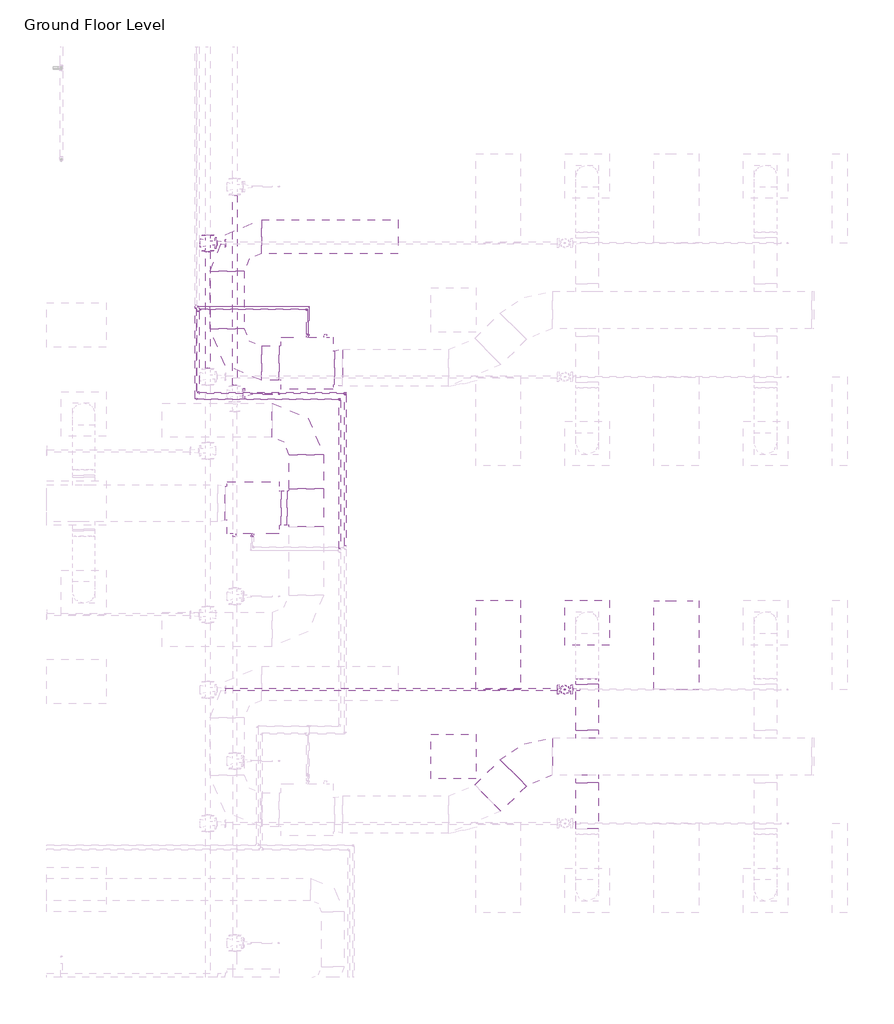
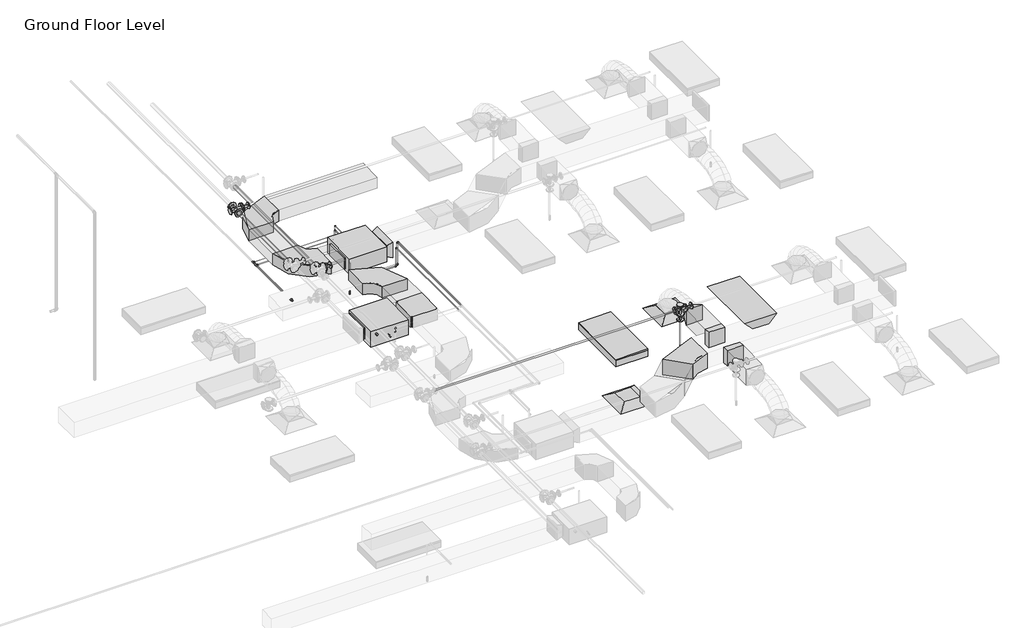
# One storey, part 62 of 74: 20 pipe fittings, 20 pipe segments, 9 duct fittings, 8 duct segments, 2 air terminals, 2 fire suppression terminals, 2 light fixtures, 2 proxies.
"""IFC4 building model written with IfcOpenShell, lengths in millimetres."""

from ifc_helpers import new_model, si_unit, point, frame, frame_2d, origin, place, context, project, spatial, polyline, circle_curve, trimmed, segment, composite_curve, outline, extrude, transform, mapped, element, save
from components import m_return_diffuser_600_x_600_face_300_x_300_connection_ff221211, fcu_daikin_iu_bad131e0, m_rectangular_elbow_radius_1_w_54c96895, m_rectangular_elbow_radius_1_5_w_acc56c25, m_rectangular_takeoff_standard_cb0ccb98, m_rectangular_takeoff_standard_2be5eba1, m_rectangular_tee_standard_fa4de0e8, m_rectangular_transition_angle_45_degree_2b595dfe, m_rectangular_to_round_transition_angle_45_degree_641efff0, m_sprinkler_dry_pendent_hosted_15_mm_dry_pendent_9bda8e11, m_sprinkler_pendent_15_mm_pendent_06fcbd8e, m_emergency_recessed_lighting_fixture_600x1200_277_5b10b25d, m_troffer_light_parabolic_rectangular1_0600x1200mm_4_lamp_86473d4a, m_elbow_generic_standard_a088f956, m_elbow_generic_standard_2a704253, m_elbow_generic_standard_73005802, m_elbow_generic_standard_bb5ffebe, m_reducer_flanged_cs_class_150_standard_ccf252ad, m_reducer_flanged_cs_class_150_standard_9dfe9ec5, m_reducer_flanged_cs_class_150_standard_a7631c35, m_tee_generic_standard_cdc1cff5, m_tee_generic_standard_bbfc025c, m_tee_round_base_flanged_cs_class_150_standard_dd767e04, m_tee_round_base_flanged_cs_class_150_standard_7e5987a1, m_transition_generic_standard_e9aec4dd, m_transition_generic_standard_c2658a33

model = new_model("IFC4")

# Units and contexts
model_context = context("Model", 3, world=origin())
ifc_project = project(units=[si_unit("LENGTHUNIT", "METRE", prefix="MILLI")], contexts=[model_context])

# Site, building, storey
site = spatial("IfcSite", under=ifc_project)
building = spatial("IfcBuilding", under=site)
storey = spatial("IfcBuildingStorey", under=building, Name="Ground Floor Level", Elevation=900.0)

# Air terminals
placement = place(None, origin())
m_return_diffuser_600_x_600_face_300_x_300_connection_shape = m_return_diffuser_600_x_600_face_300_x_300_connection_ff221211(model_context)
element("IfcAirTerminal", 1, ObjectType="M_Return Diffuser : 600 x 600 Face 300 x 300 Connection", at=placement, inside=storey, context=model_context, shape_type="MappedRepresentation", body=[
    mapped(m_return_diffuser_600_x_600_face_300_x_300_connection_shape, transform((8942.7672395, 725.2153534, 3650.0), x_axis=(1.0, 0.0, 0.0), y_axis=(0.0, 1.0, 0.0), z_axis=(0.0, 0.0, 1.0))),
])
element("IfcAirTerminal", 2, ObjectType="M_Supply Diffuser : 600 x 600 Face 300 x 300 Connection", at=placement, inside=storey, context=model_context, shape_type="MappedRepresentation", body=[
    mapped(m_return_diffuser_600_x_600_face_300_x_300_connection_shape, transform((10742.7672395, 2525.2153534, 3650.0), x_axis=(1.0, 0.0, 0.0), y_axis=(0.0, 1.0, 0.0), z_axis=(0.0, 0.0, 1.0))),
])

# Proxies
fcu_daikin_iu_shape = fcu_daikin_iu_bad131e0(model_context)
element("IfcBuildingElementProxy", 3, Name="FCU-DAIKIN IU : 4.5kW, 230V/50Hz/1Ph", ObjectType="FCU-DAIKIN IU : 4.5kW, 230V/50Hz/1Ph", at=placement, inside=storey, context=model_context, shape_type="MappedRepresentation", body=[
    mapped(fcu_daikin_iu_shape, transform((6968.8139492, 6019.6779527, 3934.0932729), x_axis=(0.0, 1.0, 0.0), y_axis=(-1.0, 0.0, 0.0), z_axis=(0.0, 0.0, 1.0))),
])
element("IfcBuildingElementProxy", 4, Name="FCU-DAIKIN IU : 4.5kW, 230V/50Hz/1Ph", ObjectType="FCU-DAIKIN IU : 4.5kW, 230V/50Hz/1Ph", at=placement, inside=storey, context=model_context, shape_type="MappedRepresentation", body=[
    mapped(fcu_daikin_iu_shape, transform((6243.4139492, 4071.5199167, 3934.0875), x_axis=(0.0, -1.0, 0.0), y_axis=(1.0, 0.0, 0.0), z_axis=(0.0, 0.0, 1.0))),
])

# Duct fittings
m_rectangular_elbow_radius_1_w_shape = m_rectangular_elbow_radius_1_w_54c96895(model_context)
element("IfcDuctFitting", 5, ObjectType="M_Rectangular Elbow - Radius : 1 W", at=placement, inside=storey, context=model_context, shape_type="MappedRepresentation", body=[
    mapped(m_rectangular_elbow_radius_1_w_shape, transform((5893.4139492, 6019.6779527, 4075.2932729), x_axis=(0.0, -1.0, 0.0), y_axis=(1.0, 0.0, 0.0), z_axis=(0.0, 0.0, 1.0))),
])
element("IfcDuctFitting", 6, ObjectType="M_Rectangular Elbow - Radius : 1 W", at=placement, inside=storey, context=model_context, shape_type="MappedRepresentation", body=[
    mapped(m_rectangular_elbow_radius_1_w_shape, transform((5893.4139492, 7719.6783949, 4075.2932729), x_axis=(-1.0, 0.0, 0.0), y_axis=(0.0, -1.0, 0.0), z_axis=(0.0, 0.0, 1.0))),
])
element("IfcDuctFitting", 7, ObjectType="M_Rectangular Elbow - Radius : 1 W", at=placement, inside=storey, context=model_context, shape_type="MappedRepresentation", body=[
    mapped(m_rectangular_elbow_radius_1_w_shape, transform((6958.8139492, 5251.5199167, 4075.2875), x_axis=(0.0, 1.0, 0.0), y_axis=(-1.0, 0.0, 0.0), z_axis=(0.0, 0.0, 1.0))),
])
m_rectangular_elbow_radius_1_5_w_shape = m_rectangular_elbow_radius_1_5_w_acc56c25(model_context)
element("IfcDuctFitting", 8, ObjectType="M_Rectangular Elbow - Radius : 1.5 W", at=placement, inside=storey, context=model_context, shape_type="MappedRepresentation", body=[
    mapped(m_rectangular_elbow_radius_1_5_w_shape, transform((9966.7301365, 725.2153534, 4100.0), x_axis=(-1.0, 0.0, 0.0), y_axis=(0.0, -0.9999999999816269, 6.061864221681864e-06), z_axis=(0.0, 6.061864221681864e-06, 0.9999999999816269))),
])
m_rectangular_takeoff_standard_shape = m_rectangular_takeoff_standard_cb0ccb98(model_context)
element("IfcDuctFitting", 9, ObjectType="M_Rectangular Takeoff : Standard", at=placement, inside=storey, context=model_context, shape_type="MappedRepresentation", body=[
    mapped(m_rectangular_takeoff_standard_shape, transform((10742.7672395, 975.2153534, 4100.0), x_axis=(0.0, 1.0, 0.0), y_axis=(1.0, 0.0, 0.0), z_axis=(0.0, 0.0, -1.0))),
])
m_rectangular_takeoff_standard_2_shape = m_rectangular_takeoff_standard_2be5eba1(model_context)
element("IfcDuctFitting", 10, ObjectType="M_Rectangular Takeoff : Standard", at=placement, inside=storey, context=model_context, shape_type="MappedRepresentation", body=[
    mapped(m_rectangular_takeoff_standard_2_shape, transform((10742.7672395, 475.2153534, 4100.0), x_axis=(0.0, -1.0, 0.0), y_axis=(-1.0, 0.0, 0.0), z_axis=(0.0, 0.0, -1.0))),
])
m_rectangular_tee_standard_shape = m_rectangular_tee_standard_fa4de0e8(model_context)
element("IfcDuctFitting", 11, ObjectType="M_Rectangular Tee : Standard", at=placement, inside=storey, context=model_context, shape_type="MappedRepresentation", body=[
    mapped(m_rectangular_tee_standard_shape, transform((6958.8139492, 4071.5199167, 4075.2875), x_axis=(0.0, -1.0, 0.0), y_axis=(1.0, 0.0, 0.0), z_axis=(0.0, 0.0, 1.0))),
])
m_rectangular_transition_angle_45_degree_shape = m_rectangular_transition_angle_45_degree_2b595dfe(model_context)
element("IfcDuctFitting", 12, ObjectType="M_Rectangular Transition - Angle : 45 Degree", at=placement, inside=storey, context=model_context, shape_type="MappedRepresentation", body=[
    mapped(m_rectangular_transition_angle_45_degree_shape, transform((7344.2139492, 5956.1779527, 4100.0057729), x_axis=(1.0, 0.0, 0.0), y_axis=(0.0, 1.0, 0.0), z_axis=(0.0, 0.0, 1.0))),
])
m_rectangular_to_round_transition_angle_45_degree_shape = m_rectangular_to_round_transition_angle_45_degree_641efff0(model_context)
element("IfcDuctFitting", 13, ObjectType="M_Rectangular to Round Transition - Angle : 45 Degree", at=placement, inside=storey, context=model_context, shape_type="MappedRepresentation", body=[
    mapped(m_rectangular_to_round_transition_angle_45_degree_shape, transform((10742.7672395, 1697.8794221, 4100.0), x_axis=(0.0, 1.0, 0.0), y_axis=(-1.0, 0.0, 0.0), z_axis=(0.0, 0.0, 1.0))),
])

# Duct segments
element("IfcDuctSegment", 14, ObjectType="Radius Elbows / Taps", at=placement, inside=storey, context=model_context, shape_type="SweptSolid", body=[
    extrude(outline(polyline([(6593.4139492, 6250.6154527), (6593.4139492, 5788.7404527), (6355.2889492, 5788.7404527), (6355.2889492, 6250.6154527), (6593.4139492, 6250.6154527)])), frame((0.0, 0.0, 3968.1432729), z_axis=(0.0, 0.0, 1.0), x_axis=(1.0, 0.0, 0.0)), (0.0, 0.0, 1.0), 214.3),
])
element("IfcDuctSegment", 15, ObjectType="Radius Elbows / Taps", at=placement, inside=storey, context=model_context, shape_type="SweptSolid", body=[
    extrude(outline(polyline([(6124.3514492, 6481.5529527), (5662.4764492, 6481.5529527), (5662.4764492, 7257.8033949), (6124.3514492, 7257.8033949), (6124.3514492, 6481.5529527)])), frame((0.0, 0.0, 3968.1432729), z_axis=(0.0, 0.0, 1.0), x_axis=(1.0, 0.0, 0.0)), (0.0, 0.0, 1.0), 214.3),
])
element("IfcDuctSegment", 16, ObjectType="Radius Elbows / Taps", at=placement, inside=storey, context=model_context, shape_type="SweptSolid", body=[
    extrude(outline(polyline([(6355.2889492, 7488.7408949), (6355.2889492, 7950.6158949), (8193.4139492, 7950.6158949), (8193.4139492, 7488.7408949), (6355.2889492, 7488.7408949)])), frame((0.0, 0.0, 3968.1432729), z_axis=(0.0, 0.0, 1.0), x_axis=(1.0, 0.0, 0.0)), (0.0, 0.0, 1.0), 214.3),
])
element("IfcDuctSegment", 17, ObjectType="Radius Elbows / Taps", at=placement, inside=storey, context=model_context, shape_type="SweptSolid", body=[
    extrude(outline(polyline([(9584.1393452, -10.9288285), (9230.5859546, 342.6245621), (9570.2835271, 682.3221346), (9923.8369177, 328.768744), (9584.1393452, -10.9288285)])), frame((0.0, 0.0, 3950.0033908), z_axis=(0.0, 0.0, 1.0), x_axis=(1.0, 0.0, 0.0)), (0.0, 0.0, 1.0), 300.0),
])
element("IfcDuctSegment", 18, ObjectType="Radius Elbows / Taps", at=placement, inside=storey, context=model_context, shape_type="SweptSolid", body=[
    extrude(outline(polyline([(6618.8139492, 3840.5824167), (6618.8139492, 4302.4574167), (6702.8764492, 4302.4574167), (6702.8764492, 3840.5824167), (6618.8139492, 3840.5824167)])), frame((0.0, 0.0, 3968.1375), z_axis=(0.0, 0.0, 1.0), x_axis=(1.0, 0.0, 0.0)), (0.0, 0.0, 1.0), 214.3),
])
element("IfcDuctSegment", 19, ObjectType="Radius Elbows / Taps", at=placement, inside=storey, context=model_context, shape_type="SweptSolid", body=[
    extrude(outline(polyline([(7189.7514492, 4327.4574167), (6727.8764492, 4327.4574167), (6727.8764492, 4789.6449167), (7189.7514492, 4789.6449167), (7189.7514492, 4327.4574167)])), frame((0.0, 0.0, 3968.1375), z_axis=(0.0, 0.0, 1.0), x_axis=(1.0, 0.0, 0.0)), (0.0, 0.0, 1.0), 214.3),
])
element("IfcDuctSegment", 20, ObjectType="Radius Elbows / Taps", at=placement, inside=storey, context=model_context, shape_type="SweptSolid", body=[
    extrude(outline(polyline([(10892.7672395, 1076.8153534), (10592.7672395, 1076.8153534), (10592.7672395, 1697.8794221), (10892.7672395, 1697.8794221), (10892.7672395, 1076.8153534)])), frame((0.0, 0.0, 3950.0), z_axis=(0.0, 0.0, 1.0), x_axis=(1.0, 0.0, 0.0)), (0.0, 0.0, 1.0), 300.0),
])
element("IfcDuctSegment", 21, ObjectType="Radius Elbows / Taps", at=placement, inside=storey, context=model_context, shape_type="SweptSolid", body=[
    extrude(outline(polyline([(10592.7672395, 373.6153534), (10892.7672395, 373.6153534), (10892.7672395, -247.4487153), (10592.7672395, -247.4487153), (10592.7672395, 373.6153534)])), frame((0.0, 0.0, 3950.0), z_axis=(0.0, 0.0, 1.0), x_axis=(1.0, 0.0, 0.0)), (0.0, 0.0, 1.0), 300.0),
])

# Fire suppression terminals
m_sprinkler_dry_pendent_hosted_15_mm_dry_pendent_shape = m_sprinkler_dry_pendent_hosted_15_mm_dry_pendent_9bda8e11(model_context)
element("IfcFireSuppressionTerminal", 22, ObjectType="M_Sprinkler - Dry - Pendent - Hosted : 15 mm Dry Pendent", at=placement, inside=storey, context=model_context, shape_type="MappedRepresentation", body=[
    mapped(m_sprinkler_dry_pendent_hosted_15_mm_dry_pendent_shape, transform((10442.7672395, 1625.2153534, 3650.0), x_axis=(1.0, 0.0, 0.0), y_axis=(0.0, -1.0, 0.0), z_axis=(0.0, 0.0, -1.0))),
])
m_sprinkler_pendent_15_mm_pendent_shape = m_sprinkler_pendent_15_mm_pendent_06fcbd8e(model_context)
element("IfcFireSuppressionTerminal", 23, ObjectType="M_Sprinkler - Pendent : 15 mm Pendent", at=placement, inside=storey, context=model_context, shape_type="MappedRepresentation", body=[
    mapped(m_sprinkler_pendent_15_mm_pendent_shape, transform((6592.5481019, 5605.2153637, 3650.0), x_axis=(1.0, 0.0, 0.0), y_axis=(0.0, 1.0, 0.0), z_axis=(0.0, 0.0, 1.0))),
])

# Light fixtures
m_emergency_recessed_lighting_fixture_600x1200_277_shape = m_emergency_recessed_lighting_fixture_600x1200_277_5b10b25d(model_context)
element("IfcLightFixture", 24, ObjectType="M_Emergency Recessed Lighting Fixture : 600x1200 - 277", at=placement, inside=storey, context=model_context, shape_type="MappedRepresentation", body=[
    mapped(m_emergency_recessed_lighting_fixture_600x1200_277_shape, transform((11642.7672395, 1625.2153534, 3650.0), x_axis=(0.0, 1.0, 0.0), y_axis=(-1.0, 0.0, 0.0), z_axis=(0.0, 0.0, 1.0))),
])
m_troffer_light_parabolic_rectangular1_0600x1200mm_4_lamp_shape = m_troffer_light_parabolic_rectangular1_0600x1200mm_4_lamp_86473d4a(model_context)
element("IfcLightFixture", 25, ObjectType="M_Troffer Light - Parabolic Rectangular1 : 0600x1200mm(4 Lamp) - 277V 2", at=placement, inside=storey, context=model_context, shape_type="MappedRepresentation", body=[
    mapped(m_troffer_light_parabolic_rectangular1_0600x1200mm_4_lamp_shape, transform((9483.3013074, 2243.918855, 3650.0), x_axis=(0.0, 1.0, 0.0), y_axis=(-1.0, 0.0, 0.0), z_axis=(0.0, 0.0, 1.0))),
])

# Pipe fittings
m_elbow_generic_standard_shape = m_elbow_generic_standard_a088f956(model_context)
element("IfcPipeFitting", 26, ObjectType="M_Elbow - Generic : Standard", at=placement, inside=storey, context=model_context, shape_type="MappedRepresentation", body=[
    mapped(m_elbow_generic_standard_shape, transform((6968.8139492, 6741.4098545, 4034.0932729), x_axis=(0.0, 1.0, 0.0), y_axis=(0.0, 0.0, -1.0), z_axis=(-1.0, 0.0, 0.0))),
])
element("IfcPipeFitting", 27, ObjectType="M_Elbow - Generic : Standard", at=placement, inside=storey, context=model_context, shape_type="MappedRepresentation", body=[
    mapped(m_elbow_generic_standard_shape, transform((6968.8139492, 6741.4098545, 3851.8370709), x_axis=(0.0, 0.0, -1.0), y_axis=(-1.0, 0.0, 0.0), z_axis=(0.0, 1.0, 0.0))),
])
m_elbow_generic_standard_2_shape = m_elbow_generic_standard_2a704253(model_context)
element("IfcPipeFitting", 28, ObjectType="M_Elbow - Generic : Standard", at=placement, inside=storey, context=model_context, shape_type="MappedRepresentation", body=[
    mapped(m_elbow_generic_standard_2_shape, transform((6993.8139492, 6781.5253374, 4084.8932729), x_axis=(0.0, 1.0, 0.0), y_axis=(0.0, 0.0, -1.0), z_axis=(-1.0, 0.0, 0.0))),
])
element("IfcPipeFitting", 29, ObjectType="M_Elbow - Generic : Standard", at=placement, inside=storey, context=model_context, shape_type="MappedRepresentation", body=[
    mapped(m_elbow_generic_standard_2_shape, transform((6993.8139492, 6781.5253374, 3894.9), x_axis=(0.0, 0.0, -1.0), y_axis=(-1.0, 0.0, 0.0), z_axis=(0.0, 1.0, 0.0))),
])
m_elbow_generic_standard_3_shape = m_elbow_generic_standard_73005802(model_context)
element("IfcPipeFitting", 30, ObjectType="M_Elbow - Generic : Standard", at=placement, inside=storey, context=model_context, shape_type="MappedRepresentation", body=[
    mapped(m_elbow_generic_standard_3_shape, transform((7485.0672395, 5616.0098545, 4300.0), x_axis=(0.0, 1.0, 0.0), y_axis=(0.0, 0.0, -1.0), z_axis=(-1.0, 0.0, 0.0))),
])
element("IfcPipeFitting", 31, ObjectType="M_Elbow - Generic : Standard", at=placement, inside=storey, context=model_context, shape_type="MappedRepresentation", body=[
    mapped(m_elbow_generic_standard_3_shape, transform((7485.0672395, 5616.0098545, 3851.8370709), x_axis=(0.0, 0.0, -1.0), y_axis=(-1.0, 0.0, 0.0), z_axis=(0.0, 1.0, 0.0))),
])
element("IfcPipeFitting", 32, ObjectType="M_Elbow - Generic : Standard", at=placement, inside=storey, context=model_context, shape_type="MappedRepresentation", body=[
    mapped(m_elbow_generic_standard_3_shape, transform((5505.0672395, 5616.0098545, 3851.8370709), x_axis=(0.0, -1.0, 0.0), y_axis=(1.0, 0.0, 0.0), z_axis=(0.0, 0.0, 1.0))),
])
m_elbow_generic_standard_4_shape = m_elbow_generic_standard_bb5ffebe(model_context)
element("IfcPipeFitting", 33, ObjectType="M_Elbow - Generic : Standard", at=placement, inside=storey, context=model_context, shape_type="MappedRepresentation", body=[
    mapped(m_elbow_generic_standard_4_shape, transform((7412.2057053, 5534.0185138, 4265.0), x_axis=(0.0, 1.0, 0.0), y_axis=(0.0, 0.0, -1.0), z_axis=(-1.0, 0.0, 0.0))),
])
element("IfcPipeFitting", 34, ObjectType="M_Elbow - Generic : Standard", at=placement, inside=storey, context=model_context, shape_type="MappedRepresentation", body=[
    mapped(m_elbow_generic_standard_4_shape, transform((7412.2057053, 5534.0185138, 3894.9), x_axis=(0.0, 0.0, -1.0), y_axis=(-1.0, 0.0, 0.0), z_axis=(0.0, 1.0, 0.0))),
])
element("IfcPipeFitting", 35, ObjectType="M_Elbow - Generic : Standard", at=placement, inside=storey, context=model_context, shape_type="MappedRepresentation", body=[
    mapped(m_elbow_generic_standard_4_shape, transform((5472.2057053, 5534.0185138, 3894.9), x_axis=(0.0, -1.0, 0.0), y_axis=(1.0, 0.0, 0.0), z_axis=(0.0, 0.0, 1.0))),
])
m_reducer_flanged_cs_class_150_standard_shape = m_reducer_flanged_cs_class_150_standard_ccf252ad(model_context)
element("IfcPipeFitting", 36, ObjectType="M_Reducer - Flanged - CS - Class 150 : Standard", at=placement, inside=storey, context=model_context, shape_type="MappedRepresentation", body=[
    mapped(m_reducer_flanged_cs_class_150_standard_shape, transform((10543.4758332, 1625.2153534, 4360.0), x_axis=(1.0, 0.0, 0.0), y_axis=(0.0, 0.0, 1.0), z_axis=(0.0, -1.0, 0.0))),
])
element("IfcPipeFitting", 37, ObjectType="M_Reducer - Flanged - CS - Class 150 : Standard", at=placement, inside=storey, context=model_context, shape_type="MappedRepresentation", body=[
    mapped(m_reducer_flanged_cs_class_150_standard_shape, transform((10442.7672395, 1625.2153534, 4259.2914062), x_axis=(0.0, 0.0, -1.0), y_axis=(-1.0, 0.0, 0.0), z_axis=(0.0, 1.0, 0.0))),
])
m_reducer_flanged_cs_class_150_standard_2_shape = m_reducer_flanged_cs_class_150_standard_9dfe9ec5(model_context)
element("IfcPipeFitting", 38, ObjectType="M_Reducer - Flanged - CS - Class 150 : Standard", at=placement, inside=storey, context=model_context, shape_type="MappedRepresentation", body=[
    mapped(m_reducer_flanged_cs_class_150_standard_2_shape, transform((6111.057812, 5605.2153637, 4289.9751777), x_axis=(1.0, 0.0, 0.0), y_axis=(0.0, 0.0, -1.0), z_axis=(0.0, 1.0, 0.0))),
])
m_reducer_flanged_cs_class_150_standard_3_shape = m_reducer_flanged_cs_class_150_standard_a7631c35(model_context)
element("IfcPipeFitting", 39, ObjectType="M_Reducer - Flanged - CS - Class 150 : Standard", at=placement, inside=storey, context=model_context, shape_type="MappedRepresentation", body=[
    mapped(m_reducer_flanged_cs_class_150_standard_3_shape, transform((5749.869498, 7635.2153534, 4360.0), x_axis=(1.0, 0.0, 0.0), y_axis=(0.0, 0.0, 1.0), z_axis=(0.0, -1.0, 0.0))),
])
m_tee_generic_standard_shape = m_tee_generic_standard_cdc1cff5(model_context)
element("IfcPipeFitting", 40, ObjectType="M_Tee - Generic : Standard", at=placement, inside=storey, context=model_context, shape_type="MappedRepresentation", body=[
    mapped(m_tee_generic_standard_shape, transform((5472.2057053, 6781.5253374, 3894.9), x_axis=(0.0, 1.0, 0.0), y_axis=(-1.0, 0.0, 0.0), z_axis=(0.0, 0.0, 1.0))),
])
m_tee_generic_standard_2_shape = m_tee_generic_standard_bbfc025c(model_context)
element("IfcPipeFitting", 41, ObjectType="M_Tee - Generic : Standard", at=placement, inside=storey, context=model_context, shape_type="MappedRepresentation", body=[
    mapped(m_tee_generic_standard_2_shape, transform((5505.0672395, 6741.4098545, 3851.8370709), x_axis=(0.0, 1.0, 0.0), y_axis=(-1.0, 0.0, 0.0), z_axis=(0.0, 0.0, 1.0))),
])
m_tee_round_base_flanged_cs_class_150_standard_shape = m_tee_round_base_flanged_cs_class_150_standard_dd767e04(model_context)
element("IfcPipeFitting", 42, ObjectType="M_Tee Round Base - Flanged - CS - Class 150 : Standard", at=placement, inside=storey, context=model_context, shape_type="MappedRepresentation", body=[
    mapped(m_tee_round_base_flanged_cs_class_150_standard_shape, transform((5635.869498, 7635.2153534, 4360.0), x_axis=(0.0, 1.0, 0.0), y_axis=(-1.0, 0.0, 0.0), z_axis=(0.0, 0.0, 1.0))),
])
m_tee_round_base_flanged_cs_class_150_standard_2_shape = m_tee_round_base_flanged_cs_class_150_standard_7e5987a1(model_context)
element("IfcPipeFitting", 43, ObjectType="M_Tee Round Base - Flanged - CS - Class 150 : Standard", at=placement, inside=storey, context=model_context, shape_type="MappedRepresentation", body=[
    mapped(m_tee_round_base_flanged_cs_class_150_standard_2_shape, transform((10442.7672395, 1625.2153534, 4360.0), x_axis=(1.0, 0.0, 0.0), y_axis=(0.0, 0.0, 1.0), z_axis=(0.0, -1.0, 0.0))),
])
m_transition_generic_standard_shape = m_transition_generic_standard_e9aec4dd(model_context)
element("IfcPipeFitting", 44, ObjectType="M_Transition - Generic : Standard", at=placement, inside=storey, context=model_context, shape_type="MappedRepresentation", body=[
    mapped(m_transition_generic_standard_shape, transform((5530.4672395, 6741.4098545, 3851.8370709), x_axis=(1.0, 0.0, 0.0), y_axis=(0.0, 1.0, 0.0), z_axis=(0.0, 0.0, 1.0))),
])
m_transition_generic_standard_2_shape = m_transition_generic_standard_c2658a33(model_context)
element("IfcPipeFitting", 45, ObjectType="M_Transition - Generic : Standard", at=placement, inside=storey, context=model_context, shape_type="MappedRepresentation", body=[
    mapped(m_transition_generic_standard_2_shape, transform((5494.4307053, 6781.5253374, 3894.9), x_axis=(1.0, 0.0, 0.0), y_axis=(0.0, 1.0, 0.0), z_axis=(0.0, 0.0, 1.0))),
])

# Pipe segments
element("IfcPipeSegment", 46, ObjectType="Copper", at=placement, inside=storey, context=model_context, shape_type="SweptSolid", body=[
    extrude(outline(composite_curve([segment(trimmed(circle_curve(frame_2d((3894.9, 5472.2057053)), 8.1), [point((3894.9, 5464.1057053))], [point((3886.8, 5472.2057053))], False, "CARTESIAN"), True, "CONTINUOUS"), segment(trimmed(circle_curve(frame_2d((3894.9, 5472.2057053)), 8.1), [point((3886.8, 5472.2057053))], [point((3894.9, 5480.3057053))], False, "CARTESIAN"), True, "CONTINUOUS"), segment(trimmed(circle_curve(frame_2d((3894.9, 5472.2057053)), 8.1), [point((3894.9, 5480.3057053))], [point((3903.0, 5472.2057053))], False, "CARTESIAN"), True, "CONTINUOUS"), segment(trimmed(circle_curve(frame_2d((3894.9, 5472.2057053)), 8.1), [point((3903.0, 5472.2057053))], [point((3894.9, 5464.1057053))], False, "CARTESIAN"), True, "CONTINUOUS")], self_intersect=False)), frame((0.0, 5549.8935138, 0.0), z_axis=(0.0, 1.0, 0.0), x_axis=(0.0, 0.0, 1.0)), (0.0, 0.0, 1.0), 1209.4068236),
])
element("IfcPipeSegment", 47, ObjectType="Copper", at=placement, inside=storey, context=model_context, shape_type="SweptSolid", body=[
    extrude(outline(composite_curve([segment(trimmed(circle_curve(frame_2d((3851.8370709, 5505.0672395)), 11.5), [point((3851.8370709, 5493.5672395))], [point((3840.3370709, 5505.0672395))], False, "CARTESIAN"), True, "CONTINUOUS"), segment(trimmed(circle_curve(frame_2d((3851.8370709, 5505.0672395)), 11.5), [point((3840.3370709, 5505.0672395))], [point((3851.8370709, 5516.5672395))], False, "CARTESIAN"), True, "CONTINUOUS"), segment(trimmed(circle_curve(frame_2d((3851.8370709, 5505.0672395)), 11.5), [point((3851.8370709, 5516.5672395))], [point((3863.3370709, 5505.0672395))], False, "CARTESIAN"), True, "CONTINUOUS"), segment(trimmed(circle_curve(frame_2d((3851.8370709, 5505.0672395)), 11.5), [point((3863.3370709, 5505.0672395))], [point((3851.8370709, 5493.5672395))], False, "CARTESIAN"), True, "CONTINUOUS")], self_intersect=False)), frame((0.0, 5635.0598545, 0.0), z_axis=(0.0, 1.0, 0.0), x_axis=(0.0, 0.0, 1.0)), (0.0, 0.0, 1.0), 1080.95),
])
element("IfcPipeSegment", 48, ObjectType="Copper", at=placement, inside=storey, context=model_context, shape_type="SweptSolid", body=[
    extrude(outline(composite_curve([segment(trimmed(circle_curve(frame_2d((5616.0098545, 3851.8370709)), 11.5), [point((5627.5098545, 3851.8370709))], [point((5616.0098545, 3840.3370709))], False, "CARTESIAN"), True, "CONTINUOUS"), segment(trimmed(circle_curve(frame_2d((5616.0098545, 3851.8370709)), 11.5), [point((5616.0098545, 3840.3370709))], [point((5604.5098545, 3851.8370709))], False, "CARTESIAN"), True, "CONTINUOUS"), segment(trimmed(circle_curve(frame_2d((5616.0098545, 3851.8370709)), 11.5), [point((5604.5098545, 3851.8370709))], [point((5616.0098545, 3863.3370709))], False, "CARTESIAN"), True, "CONTINUOUS"), segment(trimmed(circle_curve(frame_2d((5616.0098545, 3851.8370709)), 11.5), [point((5616.0098545, 3863.3370709))], [point((5627.5098545, 3851.8370709))], False, "CARTESIAN"), True, "CONTINUOUS")], self_intersect=False)), frame((5524.1172395, 0.0, 0.0), z_axis=(1.0, 0.0, 0.0), x_axis=(0.0, 1.0, 0.0)), (0.0, 0.0, 1.0), 1941.9),
])
element("IfcPipeSegment", 49, ObjectType="Copper", at=placement, inside=storey, context=model_context, shape_type="SweptSolid", body=[
    extrude(outline(composite_curve([segment(trimmed(circle_curve(frame_2d((5534.0185138, 3894.9)), 8.1), [point((5542.1185138, 3894.9))], [point((5534.0185138, 3886.8))], False, "CARTESIAN"), True, "CONTINUOUS"), segment(trimmed(circle_curve(frame_2d((5534.0185138, 3894.9)), 8.1), [point((5534.0185138, 3886.8))], [point((5525.9185138, 3894.9))], False, "CARTESIAN"), True, "CONTINUOUS"), segment(trimmed(circle_curve(frame_2d((5534.0185138, 3894.9)), 8.1), [point((5525.9185138, 3894.9))], [point((5534.0185138, 3903.0))], False, "CARTESIAN"), True, "CONTINUOUS"), segment(trimmed(circle_curve(frame_2d((5534.0185138, 3894.9)), 8.1), [point((5534.0185138, 3903.0))], [point((5542.1185138, 3894.9))], False, "CARTESIAN"), True, "CONTINUOUS")], self_intersect=False)), frame((5488.0807053, 0.0, 0.0), z_axis=(1.0, 0.0, 0.0), x_axis=(0.0, 1.0, 0.0)), (0.0, 0.0, 1.0), 1908.25),
])
element("IfcPipeSegment", 50, ObjectType="Copper", at=placement, inside=storey, context=model_context, shape_type="SweptSolid", body=[
    extrude(outline(composite_curve([segment(trimmed(circle_curve(frame_2d((6781.5253374, 3894.9)), 3.35), [point((6784.8753374, 3894.9))], [point((6781.5253374, 3891.55))], False, "CARTESIAN"), True, "CONTINUOUS"), segment(trimmed(circle_curve(frame_2d((6781.5253374, 3894.9)), 3.35), [point((6781.5253374, 3891.55))], [point((6778.1753374, 3894.9))], False, "CARTESIAN"), True, "CONTINUOUS"), segment(trimmed(circle_curve(frame_2d((6781.5253374, 3894.9)), 3.35), [point((6778.1753374, 3894.9))], [point((6781.5253374, 3898.25))], False, "CARTESIAN"), True, "CONTINUOUS"), segment(trimmed(circle_curve(frame_2d((6781.5253374, 3894.9)), 3.35), [point((6781.5253374, 3898.25))], [point((6784.8753374, 3894.9))], False, "CARTESIAN"), True, "CONTINUOUS")], self_intersect=False)), frame((5499.1932053, 0.0, 0.0), z_axis=(1.0, 0.0, 0.0), x_axis=(0.0, 1.0, 0.0)), (0.0, 0.0, 1.0), 1483.483244),
])
element("IfcPipeSegment", 51, ObjectType="Copper", at=placement, inside=storey, context=model_context, shape_type="SweptSolid", body=[
    extrude(outline(composite_curve([segment(trimmed(circle_curve(frame_2d((6741.4098545, 3851.8370709)), 6.5), [point((6747.9098545, 3851.8370709))], [point((6741.4098545, 3845.3370709))], False, "CARTESIAN"), True, "CONTINUOUS"), segment(trimmed(circle_curve(frame_2d((6741.4098545, 3851.8370709)), 6.5), [point((6741.4098545, 3845.3370709))], [point((6734.9098545, 3851.8370709))], False, "CARTESIAN"), True, "CONTINUOUS"), segment(trimmed(circle_curve(frame_2d((6741.4098545, 3851.8370709)), 6.5), [point((6734.9098545, 3851.8370709))], [point((6741.4098545, 3858.3370709))], False, "CARTESIAN"), True, "CONTINUOUS"), segment(trimmed(circle_curve(frame_2d((6741.4098545, 3851.8370709)), 6.5), [point((6741.4098545, 3858.3370709))], [point((6747.9098545, 3851.8370709))], False, "CARTESIAN"), True, "CONTINUOUS")], self_intersect=False)), frame((5536.8172395, 0.0, 0.0), z_axis=(1.0, 0.0, 0.0), x_axis=(0.0, 1.0, 0.0)), (0.0, 0.0, 1.0), 1417.7092098),
])
element("IfcPipeSegment", 52, ObjectType="Copper", at=placement, inside=storey, context=model_context, shape_type="SweptSolid", body=[
    extrude(outline(composite_curve([segment(trimmed(circle_curve(frame_2d((4034.0932729, 6968.8139492)), 6.5), [point((4034.0932729, 6975.3139492))], [point((4040.5932729, 6968.8139492))], False, "CARTESIAN"), True, "CONTINUOUS"), segment(trimmed(circle_curve(frame_2d((4034.0932729, 6968.8139492)), 6.5), [point((4040.5932729, 6968.8139492))], [point((4034.0932729, 6962.3139492))], False, "CARTESIAN"), True, "CONTINUOUS"), segment(trimmed(circle_curve(frame_2d((4034.0932729, 6968.8139492)), 6.5), [point((4034.0932729, 6962.3139492))], [point((4027.5932729, 6968.8139492))], False, "CARTESIAN"), True, "CONTINUOUS"), segment(trimmed(circle_curve(frame_2d((4034.0932729, 6968.8139492)), 6.5), [point((4027.5932729, 6968.8139492))], [point((4034.0932729, 6975.3139492))], False, "CARTESIAN"), True, "CONTINUOUS")], self_intersect=False)), frame((0.0, 6407.7779526, 0.0), z_axis=(0.0, 1.0, 0.0), x_axis=(0.0, 0.0, 1.0)), (0.0, 0.0, 1.0), 319.3444019),
])
element("IfcPipeSegment", 53, ObjectType="Copper", at=placement, inside=storey, context=model_context, shape_type="SweptSolid", body=[
    extrude(outline(composite_curve([segment(trimmed(circle_curve(frame_2d((4084.8932729, 6993.8139492)), 3.35), [point((4084.8932729, 6997.1639492))], [point((4088.2432729, 6993.8139492))], False, "CARTESIAN"), True, "CONTINUOUS"), segment(trimmed(circle_curve(frame_2d((4084.8932729, 6993.8139492)), 3.35), [point((4088.2432729, 6993.8139492))], [point((4084.8932729, 6990.4639492))], False, "CARTESIAN"), True, "CONTINUOUS"), segment(trimmed(circle_curve(frame_2d((4084.8932729, 6993.8139492)), 3.35), [point((4084.8932729, 6990.4639492))], [point((4081.5432729, 6993.8139492))], False, "CARTESIAN"), True, "CONTINUOUS"), segment(trimmed(circle_curve(frame_2d((4084.8932729, 6993.8139492)), 3.35), [point((4081.5432729, 6993.8139492))], [point((4084.8932729, 6997.1639492))], False, "CARTESIAN"), True, "CONTINUOUS")], self_intersect=False)), frame((0.0, 6407.7779526, 0.0), z_axis=(0.0, 1.0, 0.0), x_axis=(0.0, 0.0, 1.0)), (0.0, 0.0, 1.0), 362.6098848),
])
element("IfcPipeSegment", 54, ObjectType="Copper", at=placement, inside=storey, context=model_context, shape_type="SweptSolid", body=[
    extrude(outline(composite_curve([segment(trimmed(circle_curve(frame_2d((4265.0, 7412.2057053)), 8.1), [point((4265.0, 7404.1057053))], [point((4256.9, 7412.2057053))], False, "CARTESIAN"), True, "CONTINUOUS"), segment(trimmed(circle_curve(frame_2d((4265.0, 7412.2057053)), 8.1), [point((4256.9, 7412.2057053))], [point((4265.0, 7420.3057053))], False, "CARTESIAN"), True, "CONTINUOUS"), segment(trimmed(circle_curve(frame_2d((4265.0, 7412.2057053)), 8.1), [point((4265.0, 7420.3057053))], [point((4273.1, 7412.2057053))], False, "CARTESIAN"), True, "CONTINUOUS"), segment(trimmed(circle_curve(frame_2d((4265.0, 7412.2057053)), 8.1), [point((4273.1, 7412.2057053))], [point((4265.0, 7404.1057053))], False, "CARTESIAN"), True, "CONTINUOUS")], self_intersect=False)), frame((0.0, 3521.8280827, 0.0), z_axis=(0.0, 1.0, 0.0), x_axis=(0.0, 0.0, 1.0)), (0.0, 0.0, 1.0), 1996.3154311),
])
element("IfcPipeSegment", 55, ObjectType="Copper", at=placement, inside=storey, context=model_context, shape_type="SweptSolid", body=[
    extrude(outline(composite_curve([segment(trimmed(circle_curve(frame_2d((4300.0, 7485.0672395)), 11.5), [point((4300.0, 7473.5672395))], [point((4288.5, 7485.0672395))], False, "CARTESIAN"), True, "CONTINUOUS"), segment(trimmed(circle_curve(frame_2d((4300.0, 7485.0672395)), 11.5), [point((4288.5, 7485.0672395))], [point((4300.0, 7496.5672395))], False, "CARTESIAN"), True, "CONTINUOUS"), segment(trimmed(circle_curve(frame_2d((4300.0, 7485.0672395)), 11.5), [point((4300.0, 7496.5672395))], [point((4311.5, 7485.0672395))], False, "CARTESIAN"), True, "CONTINUOUS"), segment(trimmed(circle_curve(frame_2d((4300.0, 7485.0672395)), 11.5), [point((4311.5, 7485.0672395))], [point((4300.0, 7473.5672395))], False, "CARTESIAN"), True, "CONTINUOUS")], self_intersect=False)), frame((0.0, 3564.8875998, 0.0), z_axis=(0.0, 1.0, 0.0), x_axis=(0.0, 0.0, 1.0)), (0.0, 0.0, 1.0), 2032.0722547),
])
element("IfcPipeSegment", 56, ObjectType="Copper", at=placement, inside=storey, context=model_context, shape_type="SweptSolid", body=[
    extrude(outline(composite_curve([segment(trimmed(circle_curve(frame_2d((6968.8139492, 6741.4098545)), 6.5), [point((6975.3139492, 6741.4098545))], [point((6968.8139492, 6734.9098545))], False, "CARTESIAN"), True, "CONTINUOUS"), segment(trimmed(circle_curve(frame_2d((6968.8139492, 6741.4098545)), 6.5), [point((6968.8139492, 6734.9098545))], [point((6962.3139492, 6741.4098545))], False, "CARTESIAN"), True, "CONTINUOUS"), segment(trimmed(circle_curve(frame_2d((6968.8139492, 6741.4098545)), 6.5), [point((6962.3139492, 6741.4098545))], [point((6968.8139492, 6747.9098545))], False, "CARTESIAN"), True, "CONTINUOUS"), segment(trimmed(circle_curve(frame_2d((6968.8139492, 6741.4098545)), 6.5), [point((6968.8139492, 6747.9098545))], [point((6975.3139492, 6741.4098545))], False, "CARTESIAN"), True, "CONTINUOUS")], self_intersect=False)), frame((0.0, 0.0, 3866.1245709), z_axis=(0.0, 0.0, 1.0), x_axis=(1.0, 0.0, 0.0)), (0.0, 0.0, 1.0), 153.6812021),
])
element("IfcPipeSegment", 57, ObjectType="Copper", at=placement, inside=storey, context=model_context, shape_type="SweptSolid", body=[
    extrude(outline(composite_curve([segment(trimmed(circle_curve(frame_2d((6993.8139492, 6781.5253374)), 3.35), [point((6997.1639492, 6781.5253374))], [point((6993.8139492, 6778.1753374))], False, "CARTESIAN"), True, "CONTINUOUS"), segment(trimmed(circle_curve(frame_2d((6993.8139492, 6781.5253374)), 3.35), [point((6993.8139492, 6778.1753374))], [point((6990.4639492, 6781.5253374))], False, "CARTESIAN"), True, "CONTINUOUS"), segment(trimmed(circle_curve(frame_2d((6993.8139492, 6781.5253374)), 3.35), [point((6990.4639492, 6781.5253374))], [point((6993.8139492, 6784.8753374))], False, "CARTESIAN"), True, "CONTINUOUS"), segment(trimmed(circle_curve(frame_2d((6993.8139492, 6781.5253374)), 3.35), [point((6993.8139492, 6784.8753374))], [point((6997.1639492, 6781.5253374))], False, "CARTESIAN"), True, "CONTINUOUS")], self_intersect=False)), frame((0.0, 0.0, 3906.0375), z_axis=(0.0, 0.0, 1.0), x_axis=(1.0, 0.0, 0.0)), (0.0, 0.0, 1.0), 167.7182729),
])
element("IfcPipeSegment", 58, ObjectType="Copper", at=placement, inside=storey, context=model_context, shape_type="SweptSolid", body=[
    extrude(outline(composite_curve([segment(trimmed(circle_curve(frame_2d((7412.2057053, 5534.0185138)), 8.1), [point((7420.3057053, 5534.0185138))], [point((7412.2057053, 5525.9185138))], False, "CARTESIAN"), True, "CONTINUOUS"), segment(trimmed(circle_curve(frame_2d((7412.2057053, 5534.0185138)), 8.1), [point((7412.2057053, 5525.9185138))], [point((7404.1057053, 5534.0185138))], False, "CARTESIAN"), True, "CONTINUOUS"), segment(trimmed(circle_curve(frame_2d((7412.2057053, 5534.0185138)), 8.1), [point((7404.1057053, 5534.0185138))], [point((7412.2057053, 5542.1185138))], False, "CARTESIAN"), True, "CONTINUOUS"), segment(trimmed(circle_curve(frame_2d((7412.2057053, 5534.0185138)), 8.1), [point((7412.2057053, 5542.1185138))], [point((7420.3057053, 5534.0185138))], False, "CARTESIAN"), True, "CONTINUOUS")], self_intersect=False)), frame((0.0, 0.0, 3910.775), z_axis=(0.0, 0.0, 1.0), x_axis=(1.0, 0.0, 0.0)), (0.0, 0.0, 1.0), 338.35),
])
element("IfcPipeSegment", 59, ObjectType="Copper", at=placement, inside=storey, context=model_context, shape_type="SweptSolid", body=[
    extrude(outline(composite_curve([segment(trimmed(circle_curve(frame_2d((7485.0672395, 5616.0098545)), 11.5), [point((7496.5672395, 5616.0098545))], [point((7485.0672395, 5604.5098545))], False, "CARTESIAN"), True, "CONTINUOUS"), segment(trimmed(circle_curve(frame_2d((7485.0672395, 5616.0098545)), 11.5), [point((7485.0672395, 5604.5098545))], [point((7473.5672395, 5616.0098545))], False, "CARTESIAN"), True, "CONTINUOUS"), segment(trimmed(circle_curve(frame_2d((7485.0672395, 5616.0098545)), 11.5), [point((7473.5672395, 5616.0098545))], [point((7485.0672395, 5627.5098545))], False, "CARTESIAN"), True, "CONTINUOUS"), segment(trimmed(circle_curve(frame_2d((7485.0672395, 5616.0098545)), 11.5), [point((7485.0672395, 5627.5098545))], [point((7496.5672395, 5616.0098545))], False, "CARTESIAN"), True, "CONTINUOUS")], self_intersect=False)), frame((0.0, 0.0, 3870.8870709), z_axis=(0.0, 0.0, 1.0), x_axis=(1.0, 0.0, 0.0)), (0.0, 0.0, 1.0), 410.0629291),
])
element("IfcPipeSegment", 60, ObjectType="Steel flanged", at=placement, inside=storey, context=model_context, shape_type="SweptSolid", body=[
    extrude(outline(composite_curve([segment(trimmed(circle_curve(frame_2d((6592.5481019, 5605.2153637)), 10.668), [point((6581.8801019, 5605.2153637))], [point((6592.5481019, 5615.8833637))], False, "CARTESIAN"), True, "CONTINUOUS"), segment(trimmed(circle_curve(frame_2d((6592.5481019, 5605.2153637)), 10.668), [point((6592.5481019, 5615.8833637))], [point((6603.2161019, 5605.2153637))], False, "CARTESIAN"), True, "CONTINUOUS"), segment(trimmed(circle_curve(frame_2d((6592.5481019, 5605.2153637)), 10.668), [point((6603.2161019, 5605.2153637))], [point((6592.5481019, 5594.5473637))], False, "CARTESIAN"), True, "CONTINUOUS"), segment(trimmed(circle_curve(frame_2d((6592.5481019, 5605.2153637)), 10.668), [point((6592.5481019, 5594.5473637))], [point((6581.8801019, 5605.2153637))], False, "CARTESIAN"), True, "CONTINUOUS")], self_intersect=False)), frame((0.0, 0.0, 3650.0), z_axis=(0.0, 0.0, 1.0), x_axis=(1.0, 0.0, 0.0)), (0.0, 0.0, 1.0), 546.9665839),
])
element("IfcPipeSegment", 61, ObjectType="Steel flanged", at=placement, inside=storey, context=model_context, shape_type="SweptSolid", body=[
    extrude(outline(composite_curve([segment(trimmed(circle_curve(frame_2d((5605.2153637, 4289.9751777)), 10.668), [point((5615.8833637, 4289.9751777))], [point((5605.2153637, 4279.3071777))], False, "CARTESIAN"), True, "CONTINUOUS"), segment(trimmed(circle_curve(frame_2d((5605.2153637, 4289.9751777)), 10.668), [point((5605.2153637, 4279.3071777))], [point((5594.5473637, 4289.9751777))], False, "CARTESIAN"), True, "CONTINUOUS"), segment(trimmed(circle_curve(frame_2d((5605.2153637, 4289.9751777)), 10.668), [point((5594.5473637, 4289.9751777))], [point((5605.2153637, 4300.6431777))], False, "CARTESIAN"), True, "CONTINUOUS"), segment(trimmed(circle_curve(frame_2d((5605.2153637, 4289.9751777)), 10.668), [point((5605.2153637, 4300.6431777))], [point((5615.8833637, 4289.9751777))], False, "CARTESIAN"), True, "CONTINUOUS")], self_intersect=False)), frame((6238.057812, 0.0, 0.0), z_axis=(1.0, 0.0, 0.0), x_axis=(0.0, 1.0, 0.0)), (0.0, 0.0, 1.0), 261.4816962),
])
element("IfcPipeSegment", 62, ObjectType="Steel flanged", at=placement, inside=storey, context=model_context, shape_type="SweptSolid", body=[
    extrude(outline(composite_curve([segment(trimmed(circle_curve(frame_2d((0.0, -30.1625)), 30.1625), [point((0.0, 0.0))], [point((30.1625, -30.1625))], False, "CARTESIAN"), True, "CONTINUOUS"), segment(trimmed(circle_curve(frame_2d((0.0, -30.1625)), 30.1625), [point((30.1625, -30.1625))], [point((0.0, -60.325))], False, "CARTESIAN"), True, "CONTINUOUS"), segment(trimmed(circle_curve(frame_2d((0.0, -30.1625)), 30.1625), [point((0.0, -60.325))], [point((-30.1625, -30.1625))], False, "CARTESIAN"), True, "CONTINUOUS"), segment(trimmed(circle_curve(frame_2d((0.0, -30.1625)), 30.1625), [point((-30.1625, -30.1625))], [point((0.0, 0.0))], False, "CARTESIAN"), True, "CONTINUOUS")], self_intersect=False)), frame((5966.895312, 5719.2153637, 4289.9751777), z_axis=(0.0, 0.9999999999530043, 9.694924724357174e-06), x_axis=(0.0, 9.694924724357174e-06, -0.9999999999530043)), (0.0, 0.0, 1.0), 2560.342547),
])
element("IfcPipeSegment", 63, ObjectType="Steel flanged", at=placement, inside=storey, context=model_context, shape_type="SweptSolid", body=[
    extrude(outline(composite_curve([segment(trimmed(circle_curve(frame_2d((4360.0, 5635.869498)), 30.1625), [point((4360.0, 5605.706998))], [point((4329.8375, 5635.869498))], False, "CARTESIAN"), True, "CONTINUOUS"), segment(trimmed(circle_curve(frame_2d((4360.0, 5635.869498)), 30.1625), [point((4329.8375, 5635.869498))], [point((4360.0, 5666.031998))], False, "CARTESIAN"), True, "CONTINUOUS"), segment(trimmed(circle_curve(frame_2d((4360.0, 5635.869498)), 30.1625), [point((4360.0, 5666.031998))], [point((4390.1625, 5635.869498))], False, "CARTESIAN"), True, "CONTINUOUS"), segment(trimmed(circle_curve(frame_2d((4360.0, 5635.869498)), 30.1625), [point((4390.1625, 5635.869498))], [point((4360.0, 5605.706998))], False, "CARTESIAN"), True, "CONTINUOUS")], self_intersect=False)), frame((0.0, 5949.2153534, 0.0), z_axis=(0.0, 1.0, 0.0), x_axis=(0.0, 0.0, 1.0)), (0.0, 0.0, 1.0), 1572.0),
])
element("IfcPipeSegment", 64, ObjectType="Steel flanged", at=placement, inside=storey, context=model_context, shape_type="SweptSolid", body=[
    extrude(outline(composite_curve([segment(trimmed(circle_curve(frame_2d((10442.7672395, 1625.2153534)), 10.668), [point((10432.0992395, 1625.2153534))], [point((10442.7672395, 1635.8833534))], False, "CARTESIAN"), True, "CONTINUOUS"), segment(trimmed(circle_curve(frame_2d((10442.7672395, 1625.2153534)), 10.668), [point((10442.7672395, 1635.8833534))], [point((10453.4352395, 1625.2153534))], False, "CARTESIAN"), True, "CONTINUOUS"), segment(trimmed(circle_curve(frame_2d((10442.7672395, 1625.2153534)), 10.668), [point((10453.4352395, 1625.2153534))], [point((10442.7672395, 1614.5473534))], False, "CARTESIAN"), True, "CONTINUOUS"), segment(trimmed(circle_curve(frame_2d((10442.7672395, 1625.2153534)), 10.668), [point((10442.7672395, 1614.5473534))], [point((10432.0992395, 1625.2153534))], False, "CARTESIAN"), True, "CONTINUOUS")], self_intersect=False)), frame((0.0, 0.0, 3650.0), z_axis=(0.0, 0.0, 1.0), x_axis=(1.0, 0.0, 0.0)), (0.0, 0.0, 1.0), 495.2914062),
])
element("IfcPipeSegment", 65, ObjectType="Steel flanged", at=placement, inside=storey, context=model_context, shape_type="SweptSolid", body=[
    extrude(outline(composite_curve([segment(trimmed(circle_curve(frame_2d((1625.2153534, 4360.0)), 16.7005), [point((1641.9158534, 4360.0))], [point((1625.2153534, 4343.2995))], False, "CARTESIAN"), True, "CONTINUOUS"), segment(trimmed(circle_curve(frame_2d((1625.2153534, 4360.0)), 16.7005), [point((1625.2153534, 4343.2995))], [point((1608.5148534, 4360.0))], False, "CARTESIAN"), True, "CONTINUOUS"), segment(trimmed(circle_curve(frame_2d((1625.2153534, 4360.0)), 16.7005), [point((1608.5148534, 4360.0))], [point((1625.2153534, 4376.7005))], False, "CARTESIAN"), True, "CONTINUOUS"), segment(trimmed(circle_curve(frame_2d((1625.2153534, 4360.0)), 16.7005), [point((1625.2153534, 4376.7005))], [point((1641.9158534, 4360.0))], False, "CARTESIAN"), True, "CONTINUOUS")], self_intersect=False)), frame((5876.869498, 0.0, 0.0), z_axis=(1.0, 0.0, 0.0), x_axis=(0.0, 1.0, 0.0)), (0.0, 0.0, 1.0), 4465.1891477),
])

save(model, "model.ifc")
